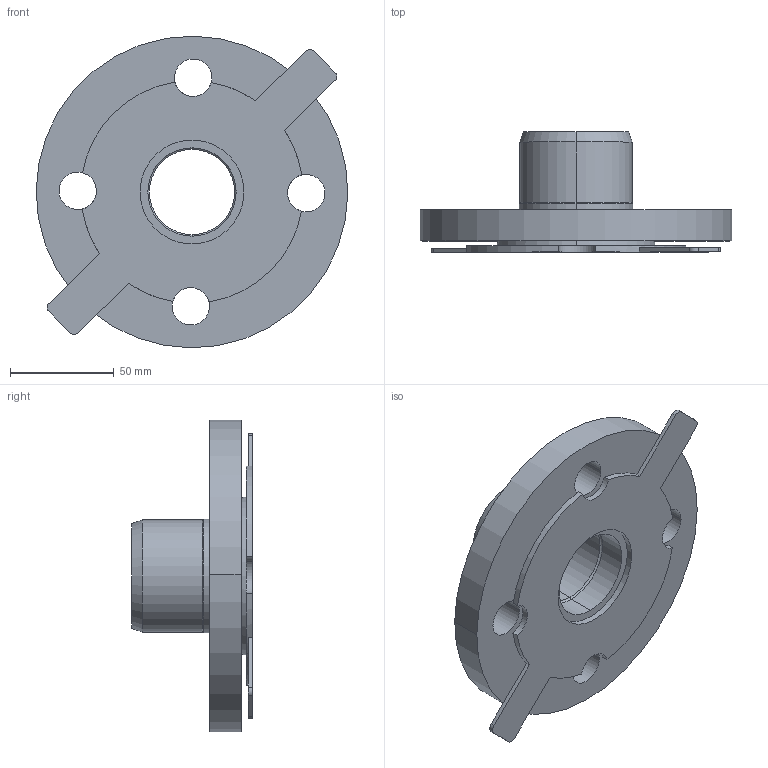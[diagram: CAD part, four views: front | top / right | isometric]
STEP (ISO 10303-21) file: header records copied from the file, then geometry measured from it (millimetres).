
FILE_DESCRIPTION (( 'STEP AP203' ), '1' );
FILE_NAME ('KP_567-54.step', '2011-08-08T11:59:11', ( '' ), ( '' ), 'SwSTEP 2.0', 'SolidWorks 2011', '' );
FILE_SCHEMA (( 'CONFIG_CONTROL_DESIGN' ));
Length unit declared in the file: millimetre
Products named in the file (1): KP_567-54
Bounding box: 149.99 x 58 x 149.99 mm (x, y, z)
Volume: 293074.8 mm3; surface area: 74534.8 mm2
Topology: 1 solids, 2 shells, 79 faces, 191 edges, 120 vertices
Faces by surface type: cylinder 37, cone 18, plane 16, torus 8
Entity records: 2444 total; most frequent: DIRECTION 467, CARTESIAN_POINT 391, ORIENTED_EDGE 382, AXIS2_PLACEMENT_3D 196, EDGE_CURVE 191, VERTEX_POINT 120, CIRCLE 116, EDGE_LOOP 95
